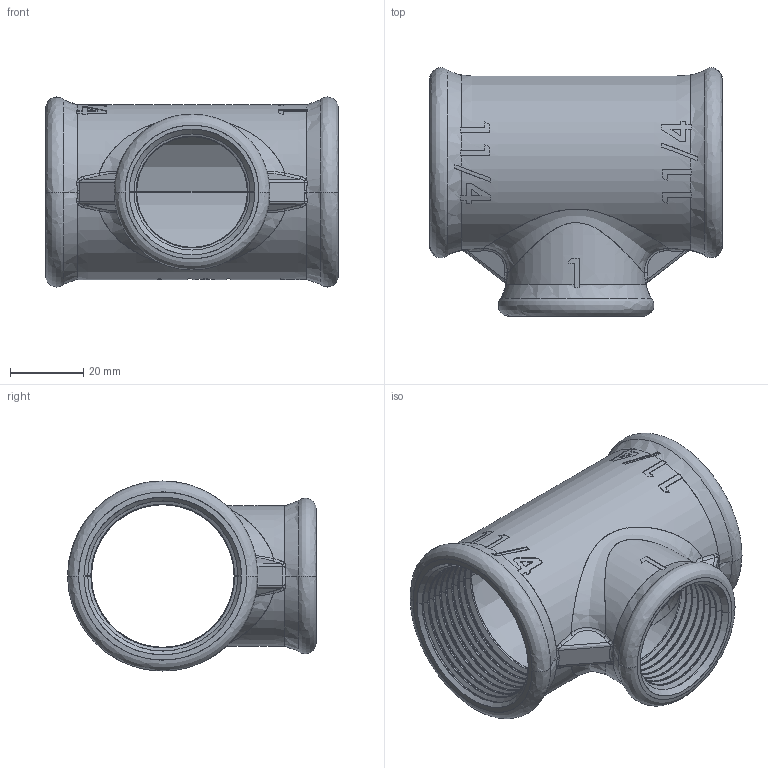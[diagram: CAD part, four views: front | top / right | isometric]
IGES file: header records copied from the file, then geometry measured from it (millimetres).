
Start section: SolidWorks IGES file using analytic representation for surfaces
Global section: file name: C:\Users\Joel Rosa\Desktop\Tubulação\12-45-XXX\12-45-037.IGS; native system: SolidWorks 2011; preprocessor: SolidWorks 2011; author: Joel Rosa; date: 121212.233627; units: millimetre
Bounding box: 80 x 68 x 52 mm (x, y, z)
Surface area: 31794.8 mm2 (no closed solid volume)
Topology: 0 solids, 0 shells, 471 faces, 4034 edges, 4034 vertices
Faces by surface type: bspline 334, revolution 137
